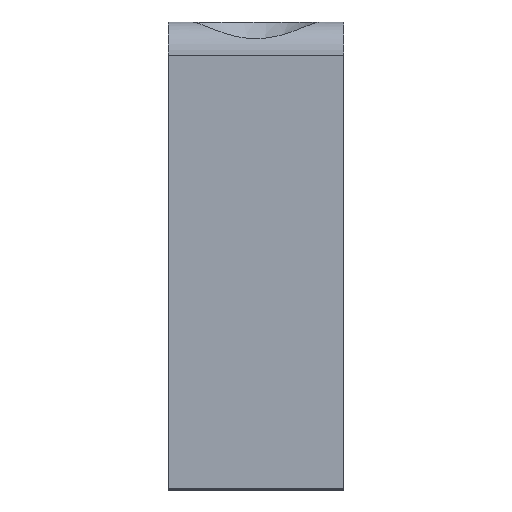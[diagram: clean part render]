
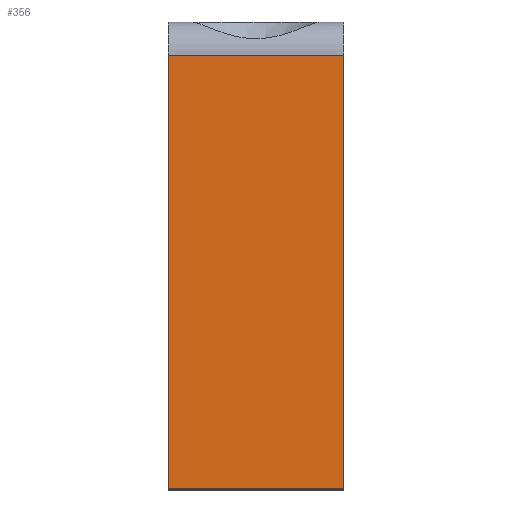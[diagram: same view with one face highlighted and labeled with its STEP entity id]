
A CAD part, top view. The second image highlights one B-rep face of the part: STEP entity #356.
In plain terms, the highlighted planar face has unit normal (0, 0, 1).
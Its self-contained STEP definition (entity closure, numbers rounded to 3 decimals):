
#50=FACE_OUTER_BOUND('',#68,.T.);
#68=EDGE_LOOP('',(#291,#292,#293,#294));
#86=LINE('',#537,#120);
#102=LINE('',#609,#136);
#104=LINE('',#639,#138);
#105=LINE('',#641,#139);
#120=VECTOR('',#430,10.);
#136=VECTOR('',#470,10.);
#138=VECTOR('',#480,10.);
#139=VECTOR('',#483,10.);
#155=VERTEX_POINT('',#534);
#156=VERTEX_POINT('',#536);
#177=VERTEX_POINT('',#606);
#178=VERTEX_POINT('',#608);
#190=EDGE_CURVE('',#155,#156,#86,.T.);
#216=EDGE_CURVE('',#178,#177,#102,.T.);
#221=EDGE_CURVE('',#178,#155,#104,.T.);
#222=EDGE_CURVE('',#156,#177,#105,.F.);
#291=ORIENTED_EDGE('',*,*,#221,.F.);
#292=ORIENTED_EDGE('',*,*,#216,.T.);
#293=ORIENTED_EDGE('',*,*,#222,.F.);
#294=ORIENTED_EDGE('',*,*,#190,.F.);
#343=PLANE('',#401);
#356=ADVANCED_FACE('',(#50),#343,.T.);
#401=AXIS2_PLACEMENT_3D('',#640,#481,#482);
#430=DIRECTION('',(0.,-1.,0.));
#470=DIRECTION('',(0.,-1.,0.));
#480=DIRECTION('',(1.,0.,0.));
#481=DIRECTION('center_axis',(0.,0.,1.));
#482=DIRECTION('ref_axis',(-1.,0.,0.));
#483=DIRECTION('',(1.,0.,0.));
#534=CARTESIAN_POINT('',(-37.,-135.,-27.4));
#536=CARTESIAN_POINT('',(-37.,-160.9,-27.4));
#537=CARTESIAN_POINT('',(-37.,-133.,-27.4));
#606=CARTESIAN_POINT('',(-47.5,-160.9,-27.4));
#608=CARTESIAN_POINT('',(-47.5,-135.,-27.4));
#609=CARTESIAN_POINT('',(-47.5,-133.,-27.4));
#639=CARTESIAN_POINT('',(-39.625,-135.,-27.4));
#640=CARTESIAN_POINT('Origin',(-37.,-133.,-27.4));
#641=CARTESIAN_POINT('',(-39.625,-160.9,-27.4));
